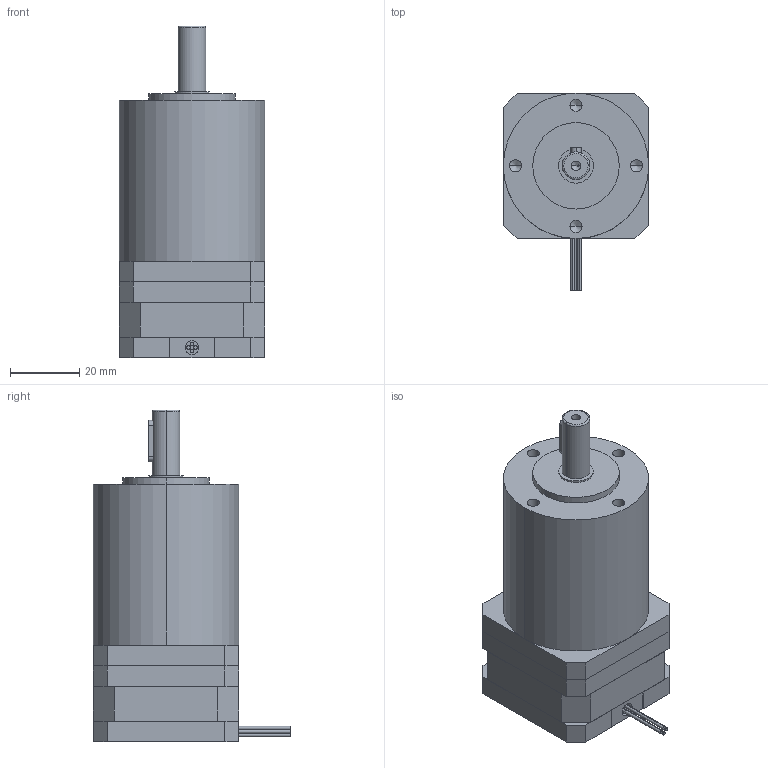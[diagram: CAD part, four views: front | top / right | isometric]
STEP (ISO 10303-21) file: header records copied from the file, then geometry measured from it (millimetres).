
FILE_DESCRIPTION (( 'STEP AP203' ), '1' );
FILE_NAME ('42PG020-D05-0422.STEP', '2019-09-21T09:31:56', ( 'China' ), ( 'Home' ), 'SwSTEP 2.0', 'SolidWorks 2016', '' );
FILE_SCHEMA (( 'CONFIG_CONTROL_DESIGN' ));
Length unit declared in the file: millimetre
Products named in the file (1): 42PG020-D05-0422
Bounding box: 42 x 57 x 95.9 mm (x, y, z)
Volume: 114170.8 mm3; surface area: 25722 mm2
Topology: 5 solids, 5 shells, 103 faces, 237 edges, 147 vertices
Faces by surface type: plane 60, cylinder 31, cone 10, bspline 2
Entity records: 2914 total; most frequent: CARTESIAN_POINT 514, DIRECTION 495, ORIENTED_EDGE 454, EDGE_CURVE 227, AXIS2_PLACEMENT_3D 168, LINE 159, VECTOR 159, VERTEX_POINT 147
